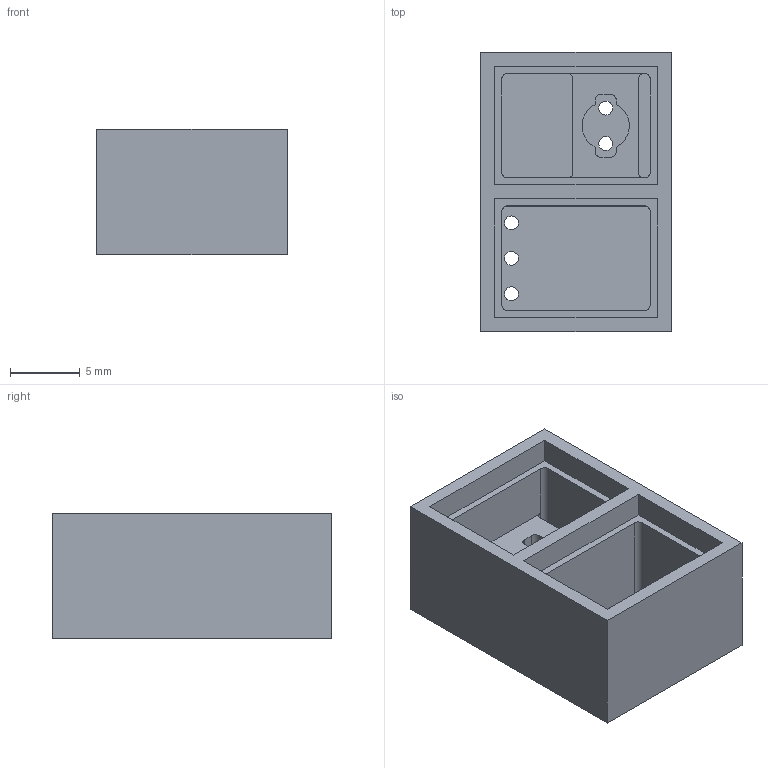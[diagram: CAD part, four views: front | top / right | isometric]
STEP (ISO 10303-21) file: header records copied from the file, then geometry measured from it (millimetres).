
FILE_DESCRIPTION(/* description */ ('Plastic Fixture'),/* implementation_level */ '2;1');
FILE_NAME(/* name */ 'M:\Minimold\TSSP_HA.stp',/* time_stamp */ '2022-01-14T17:52:18+01:00',/* author */ ('mmangarudov'),/* organization */ (''),/* preprocessor_version */ 'ST-DEVELOPER v18.1',/* originating_system */ 'Autodesk Inventor 2022',/* authorisation */ '');
FILE_SCHEMA (('AUTOMOTIVE_DESIGN { 1 0 10303 214 3 1 1 }'));
Length unit declared in the file: millimetre
Products named in the file (1): GO-100176.1
Bounding box: 13.65 x 20 x 9 mm (x, y, z)
Volume: 1135.6 mm3; surface area: 1833.8 mm2
Topology: 1 solids, 1 shells, 94 faces, 239 edges, 154 vertices
Faces by surface type: plane 47, cylinder 39, bspline 8
Full cylindrical faces by diameter (mm): 1 x5
Entity records: 2936 total; most frequent: CARTESIAN_POINT 552, DIRECTION 499, ORIENTED_EDGE 478, EDGE_CURVE 239, AXIS2_PLACEMENT_3D 173, VERTEX_POINT 154, LINE 153, VECTOR 153
